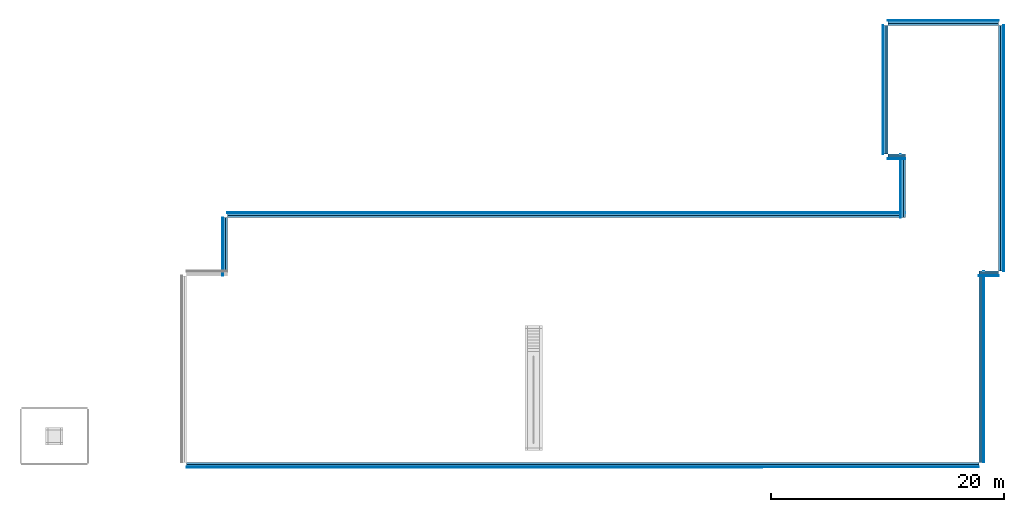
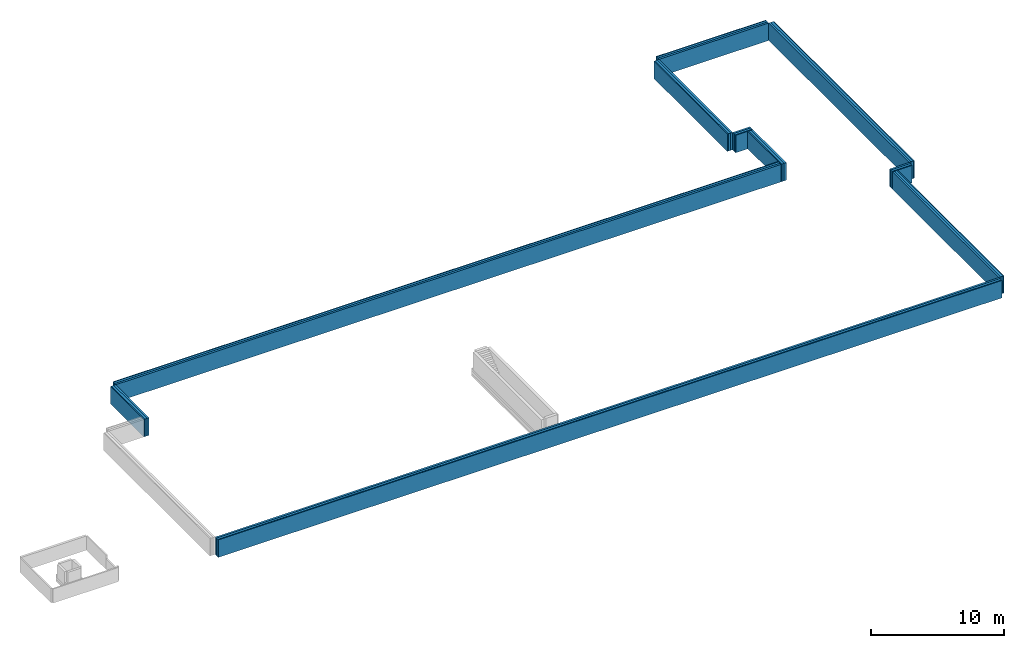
# One storey, part 2 of 3: 30 building element parts, 10 elements without a shape of their own.
"""IFC2X3 building model written with IfcOpenShell, lengths in millimetres."""

from ifc_helpers import new_model, entity, si_unit, converted_unit, derived_unit, money_unit, direction, frame, origin_with_axes, place, context, subcontext, project, spatial, polyline, outline, extrude, material, type_object, element, aggregate, save


model = new_model("IFC2X3")

# Units and contexts
model_context = context("Model", 3, precision=0.01, world=origin_with_axes(), true_north=direction((0.0, 1.0)))
body_context = subcontext(model_context, "Body", "Model", "MODEL_VIEW")
ifc_project = project(units=[si_unit("LENGTHUNIT", "METRE", prefix="MILLI"), si_unit("AREAUNIT", "SQUARE_METRE"), si_unit("VOLUMEUNIT", "CUBIC_METRE"), converted_unit("PLANEANGLEUNIT", "DEGREE", entity("IfcPlaneAngleMeasure", 0.0174532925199), si_unit("PLANEANGLEUNIT", "RADIAN"), dimensions=[0, 0, 0, 0, 0, 0, 0]), si_unit("SOLIDANGLEUNIT", "STERADIAN"), money_unit("EUR"), converted_unit("TIMEUNIT", "Year", entity("IfcTimeMeasure", 31556926.0), si_unit("TIMEUNIT", "SECOND"), dimensions=[0, 0, 1, 0, 0, 0, 0]), si_unit("MASSUNIT", "GRAM", prefix="KILO"), si_unit("THERMODYNAMICTEMPERATUREUNIT", "DEGREE_CELSIUS"), si_unit("LUMINOUSINTENSITYUNIT", "LUMEN"), si_unit("ENERGYUNIT", "JOULE", prefix="MEGA"), derived_unit("THERMALCONDUCTANCEUNIT", [(si_unit("POWERUNIT", "WATT"), 1), (si_unit("LENGTHUNIT", "METRE"), -1), (si_unit("THERMODYNAMICTEMPERATUREUNIT", "KELVIN"), -1)]), derived_unit("SPECIFICHEATCAPACITYUNIT", [(si_unit("ENERGYUNIT", "JOULE"), 1), (si_unit("MASSUNIT", "GRAM", prefix="KILO"), -1), (si_unit("THERMODYNAMICTEMPERATUREUNIT", "KELVIN"), -1)]), derived_unit("MASSDENSITYUNIT", [(si_unit("MASSUNIT", "GRAM", prefix="KILO"), 1), (si_unit("VOLUMEUNIT", "CUBIC_METRE"), -1)])], contexts=[model_context])

# Site, building, storey
site_placement = place(None, origin_with_axes())
site = spatial("IfcSite", under=ifc_project, at=site_placement, Name="Politse- ja Piirivalveameti ning Päästeameti ühishoone", CompositionType="ELEMENT")
building_placement = place(site_placement, origin_with_axes())
building = spatial("IfcBuilding", under=site, at=building_placement, Name="Politse- ja Piirivalveameti ning Päästeameti ühishoone", CompositionType="ELEMENT")
storey_placement = place(building_placement, frame((0.0, 0.0, -4000.0), z_axis=(0.0, 0.0, 1.0), x_axis=(1.0, 0.0, 0.0)))
storey = spatial("IfcBuildingStorey", under=building, at=storey_placement, Name="Vundament", CompositionType="ELEMENT", Elevation=-4000.0)

# Wall, building element parts
wall_type = type_object("IfcWallType", Name="VS-02_välissein - soklipaneel 460", PredefinedType="NOTDEFINED")
wall_1_placement = place(storey_placement, frame((0.0, 0.0, 2400.0), z_axis=(0.0, 0.0, 1.0), x_axis=(1.0, 0.0, 0.0)))
wall_1 = element("IfcWall", 1, at=wall_1_placement, inside=storey, type_object=wall_type, Name="VS-02")
ifc_material_1 = material(Name="KON-04_Betoon - Konstuktsioon")
building_element_part_1_placement = place(wall_1_placement, origin_with_axes())
building_element_part_1 = element("IfcBuildingElementPart", 2, at=building_element_part_1_placement, material=ifc_material_1, Name="KON-04_Betoon - Konstuktsioon", context=body_context, shape_type="SweptSolid", body=[
    extrude(outline(polyline([(0.0, -180.0), (67960.5638285, -180.0), (67960.5638285, 0.0), (0.0, 0.0), (0.0, -180.0)])), origin_with_axes(), (0.0, 0.0, 1.0), 1600.0),
])
ifc_material_2 = material(Name="SOJ-06_Soojustus - Plastik Kõva")
building_element_part_2_placement = place(wall_1_placement, origin_with_axes())
building_element_part_2 = element("IfcBuildingElementPart", 3, at=building_element_part_2_placement, material=ifc_material_2, Name="SOJ-06_Soojustus - Plastik Kõva", context=body_context, shape_type="SweptSolid", body=[
    extrude(outline(polyline([(0.0, -380.0), (67960.5638285, -380.0), (67960.5638285, -180.0), (0.0, -180.0), (0.0, -380.0)])), origin_with_axes(), (0.0, 0.0, 1.0), 1600.0),
])
building_element_part_3_placement = place(wall_1_placement, origin_with_axes())
building_element_part_3 = element("IfcBuildingElementPart", 4, at=building_element_part_3_placement, material=ifc_material_1, Name="KON-04_Betoon - Konstuktsioon", context=body_context, shape_type="SweptSolid", body=[
    extrude(outline(polyline([(0.0, -460.0), (67960.5638285, -460.0), (67960.5638285, -380.0), (0.0, -380.0), (0.0, -460.0)])), origin_with_axes(), (0.0, 0.0, 1.0), 1600.0),
])
aggregate(wall_1, [building_element_part_1, building_element_part_2, building_element_part_3])

wall_2_placement = place(storey_placement, frame((67960.5638285, 0.0, 2400.0), z_axis=(0.0, 0.0, 1.0), x_axis=(0.0, 1.0, 0.0)))
wall_2 = element("IfcWall", 5, at=wall_2_placement, inside=storey, type_object=wall_type, Name="VS-02")
building_element_part_4_placement = place(wall_2_placement, origin_with_axes())
building_element_part_4 = element("IfcBuildingElementPart", 6, at=building_element_part_4_placement, material=ifc_material_1, Name="KON-04_Betoon - Konstuktsioon", context=body_context, shape_type="SweptSolid", body=[
    extrude(outline(polyline([(0.0, -180.0), (16422.809139, -180.0), (16422.809139, 0.0), (0.0, 0.0), (0.0, -180.0)])), origin_with_axes(), (0.0, 0.0, 1.0), 1600.0),
])
building_element_part_5_placement = place(wall_2_placement, origin_with_axes())
building_element_part_5 = element("IfcBuildingElementPart", 7, at=building_element_part_5_placement, material=ifc_material_2, Name="SOJ-06_Soojustus - Plastik Kõva", context=body_context, shape_type="SweptSolid", body=[
    extrude(outline(polyline([(0.0, -380.0), (16422.809139, -380.0), (16422.809139, -180.0), (0.0, -180.0), (0.0, -380.0)])), origin_with_axes(), (0.0, 0.0, 1.0), 1600.0),
])
building_element_part_6_placement = place(wall_2_placement, origin_with_axes())
building_element_part_6 = element("IfcBuildingElementPart", 8, at=building_element_part_6_placement, material=ifc_material_1, Name="KON-04_Betoon - Konstuktsioon", context=body_context, shape_type="SweptSolid", body=[
    extrude(outline(polyline([(0.0, -460.0), (16422.809139, -460.0), (16422.809139, -380.0), (0.0, -380.0), (0.0, -460.0)])), origin_with_axes(), (0.0, 0.0, 1.0), 1600.0),
])
aggregate(wall_2, [building_element_part_4, building_element_part_5, building_element_part_6])

wall_3_placement = place(storey_placement, frame((69660.5664257, 37499.9521318, 2400.0), z_axis=(0.0, 0.0, 1.0), x_axis=(-1.0, 0.0, 0.0)))
wall_3 = element("IfcWall", 9, at=wall_3_placement, inside=storey, type_object=wall_type, Name="VS-02")
building_element_part_7_placement = place(wall_3_placement, origin_with_axes())
building_element_part_7 = element("IfcBuildingElementPart", 10, at=building_element_part_7_placement, material=ifc_material_1, Name="KON-04_Betoon - Konstuktsioon", context=body_context, shape_type="SweptSolid", body=[
    extrude(outline(polyline([(0.0, -180.0), (9500.01451389, -180.0), (9500.01451389, 0.0), (0.0, 0.0), (0.0, -180.0)])), origin_with_axes(), (0.0, 0.0, 1.0), 1600.0),
])
building_element_part_8_placement = place(wall_3_placement, origin_with_axes())
building_element_part_8 = element("IfcBuildingElementPart", 11, at=building_element_part_8_placement, material=ifc_material_2, Name="SOJ-06_Soojustus - Plastik Kõva", context=body_context, shape_type="SweptSolid", body=[
    extrude(outline(polyline([(0.0, -380.0), (9500.01451389, -380.0), (9500.01451389, -180.0), (0.0, -180.0), (0.0, -380.0)])), origin_with_axes(), (0.0, 0.0, 1.0), 1600.0),
])
building_element_part_9_placement = place(wall_3_placement, origin_with_axes())
building_element_part_9 = element("IfcBuildingElementPart", 12, at=building_element_part_9_placement, material=ifc_material_1, Name="KON-04_Betoon - Konstuktsioon", context=body_context, shape_type="SweptSolid", body=[
    extrude(outline(polyline([(0.0, -460.0), (9500.01451389, -460.0), (9500.01451389, -380.0), (0.0, -380.0), (0.0, -460.0)])), origin_with_axes(), (0.0, 0.0, 1.0), 1600.0),
])
aggregate(wall_3, [building_element_part_7, building_element_part_8, building_element_part_9])

wall_4_placement = place(storey_placement, frame((3500.00534722, 20999.9520832, 2400.0), z_axis=(0.0, 0.0, 1.0), x_axis=(1.0, 0.0, 0.0)))
wall_4 = element("IfcWall", 13, at=wall_4_placement, inside=storey, type_object=wall_type, Name="VS-02")
building_element_part_10_placement = place(wall_4_placement, origin_with_axes())
building_element_part_10 = element("IfcBuildingElementPart", 14, at=building_element_part_10_placement, material=ifc_material_1, Name="KON-04_Betoon - Konstuktsioon", context=body_context, shape_type="SweptSolid", body=[
    extrude(outline(polyline([(0.0, 0.0), (58160.5465646, 0.0), (58160.5465646, 180.0), (0.0, 180.0), (0.0, 0.0)])), origin_with_axes(), (0.0, 0.0, 1.0), 1600.0),
])
building_element_part_11_placement = place(wall_4_placement, origin_with_axes())
building_element_part_11 = element("IfcBuildingElementPart", 15, at=building_element_part_11_placement, material=ifc_material_2, Name="SOJ-06_Soojustus - Plastik Kõva", context=body_context, shape_type="SweptSolid", body=[
    extrude(outline(polyline([(0.0, 180.0), (58160.5465646, 180.0), (58160.5465646, 380.0), (0.0, 380.0), (0.0, 180.0)])), origin_with_axes(), (0.0, 0.0, 1.0), 1600.0),
])
building_element_part_12_placement = place(wall_4_placement, origin_with_axes())
building_element_part_12 = element("IfcBuildingElementPart", 16, at=building_element_part_12_placement, material=ifc_material_1, Name="KON-04_Betoon - Konstuktsioon", context=body_context, shape_type="SweptSolid", body=[
    extrude(outline(polyline([(0.0, 380.0), (58160.5465646, 380.0), (58160.5465646, 460.0), (0.0, 460.0), (0.0, 380.0)])), origin_with_axes(), (0.0, 0.0, 1.0), 1600.0),
])
aggregate(wall_4, [building_element_part_10, building_element_part_11, building_element_part_12])

wall_5_placement = place(storey_placement, frame((3500.00534722, 16000.0244444, 2400.0), z_axis=(0.0, 0.0, 1.0), x_axis=(0.0, 1.0, 0.0)))
wall_5 = element("IfcWall", 17, at=wall_5_placement, inside=storey, type_object=wall_type, Name="VS-02")
building_element_part_13_placement = place(wall_5_placement, origin_with_axes())
building_element_part_13 = element("IfcBuildingElementPart", 18, at=building_element_part_13_placement, material=ifc_material_1, Name="KON-04_Betoon - Konstuktsioon", context=body_context, shape_type="SweptSolid", body=[
    extrude(outline(polyline([(0.0, 0.0), (4999.92763877, 0.0), (4999.92763877, 180.0), (0.0, 180.0), (0.0, 0.0)])), origin_with_axes(), (0.0, 0.0, 1.0), 1600.0),
])
building_element_part_14_placement = place(wall_5_placement, origin_with_axes())
building_element_part_14 = element("IfcBuildingElementPart", 19, at=building_element_part_14_placement, material=ifc_material_2, Name="SOJ-06_Soojustus - Plastik Kõva", context=body_context, shape_type="SweptSolid", body=[
    extrude(outline(polyline([(0.0, 180.0), (4999.92763877, 180.0), (4999.92763877, 380.0), (0.0, 380.0), (0.0, 180.0)])), origin_with_axes(), (0.0, 0.0, 1.0), 1600.0),
])
building_element_part_15_placement = place(wall_5_placement, origin_with_axes())
building_element_part_15 = element("IfcBuildingElementPart", 20, at=building_element_part_15_placement, material=ifc_material_1, Name="KON-04_Betoon - Konstuktsioon", context=body_context, shape_type="SweptSolid", body=[
    extrude(outline(polyline([(0.0, 380.0), (4999.92763877, 380.0), (4999.92763877, 460.0), (0.0, 460.0), (0.0, 380.0)])), origin_with_axes(), (0.0, 0.0, 1.0), 1600.0),
])
aggregate(wall_5, [building_element_part_13, building_element_part_14, building_element_part_15])

wall_6_placement = place(storey_placement, frame((69660.5664257, 37499.9521318, 2400.0), z_axis=(0.0, 0.0, 1.0), x_axis=(0.0, -1.0, 0.0)))
wall_6 = element("IfcWall", 21, at=wall_6_placement, inside=storey, type_object=wall_type, Name="VS-02")
building_element_part_16_placement = place(wall_6_placement, origin_with_axes())
building_element_part_16 = element("IfcBuildingElementPart", 22, at=building_element_part_16_placement, material=ifc_material_1, Name="KON-04_Betoon - Konstuktsioon", context=body_context, shape_type="SweptSolid", body=[
    extrude(outline(polyline([(0.0, 0.0), (21077.1429928, 0.0), (21077.1429928, 180.0), (0.0, 180.0), (0.0, 0.0)])), origin_with_axes(), (0.0, 0.0, 1.0), 1600.0),
])
building_element_part_17_placement = place(wall_6_placement, origin_with_axes())
building_element_part_17 = element("IfcBuildingElementPart", 23, at=building_element_part_17_placement, material=ifc_material_2, Name="SOJ-06_Soojustus - Plastik Kõva", context=body_context, shape_type="SweptSolid", body=[
    extrude(outline(polyline([(0.0, 180.0), (21077.1429928, 180.0), (21077.1429928, 380.0), (0.0, 380.0), (0.0, 180.0)])), origin_with_axes(), (0.0, 0.0, 1.0), 1600.0),
])
building_element_part_18_placement = place(wall_6_placement, origin_with_axes())
building_element_part_18 = element("IfcBuildingElementPart", 24, at=building_element_part_18_placement, material=ifc_material_1, Name="KON-04_Betoon - Konstuktsioon", context=body_context, shape_type="SweptSolid", body=[
    extrude(outline(polyline([(0.0, 380.0), (21077.1429928, 380.0), (21077.1429928, 460.0), (0.0, 460.0), (0.0, 380.0)])), origin_with_axes(), (0.0, 0.0, 1.0), 1600.0),
])
aggregate(wall_6, [building_element_part_16, building_element_part_17, building_element_part_18])

wall_7_placement = place(storey_placement, frame((69660.5664257, 16422.809139, 2400.0), z_axis=(0.0, 0.0, 1.0), x_axis=(-1.0, 0.0, 0.0)))
wall_7 = element("IfcWall", 25, at=wall_7_placement, inside=storey, type_object=wall_type, Name="VS-02")
building_element_part_19_placement = place(wall_7_placement, origin_with_axes())
building_element_part_19 = element("IfcBuildingElementPart", 26, at=building_element_part_19_placement, material=ifc_material_1, Name="KON-04_Betoon - Konstuktsioon", context=body_context, shape_type="SweptSolid", body=[
    extrude(outline(polyline([(0.0, 0.0), (1700.00259722, 0.0), (1700.00259722, 180.0), (0.0, 180.0), (0.0, 0.0)])), origin_with_axes(), (0.0, 0.0, 1.0), 1600.0),
])
building_element_part_20_placement = place(wall_7_placement, origin_with_axes())
building_element_part_20 = element("IfcBuildingElementPart", 27, at=building_element_part_20_placement, material=ifc_material_2, Name="SOJ-06_Soojustus - Plastik Kõva", context=body_context, shape_type="SweptSolid", body=[
    extrude(outline(polyline([(0.0, 180.0), (1700.00259722, 180.0), (1700.00259722, 380.0), (0.0, 380.0), (0.0, 180.0)])), origin_with_axes(), (0.0, 0.0, 1.0), 1600.0),
])
building_element_part_21_placement = place(wall_7_placement, origin_with_axes())
building_element_part_21 = element("IfcBuildingElementPart", 28, at=building_element_part_21_placement, material=ifc_material_1, Name="KON-04_Betoon - Konstuktsioon", context=body_context, shape_type="SweptSolid", body=[
    extrude(outline(polyline([(0.0, 380.0), (1700.00259722, 380.0), (1700.00259722, 460.0), (0.0, 460.0), (0.0, 380.0)])), origin_with_axes(), (0.0, 0.0, 1.0), 1600.0),
])
aggregate(wall_7, [building_element_part_19, building_element_part_20, building_element_part_21])

wall_8_placement = place(storey_placement, frame((60160.5519118, 37499.9521318, 2400.0), z_axis=(0.0, 0.0, 1.0), x_axis=(0.0, -1.0, 0.0)))
wall_8 = element("IfcWall", 29, at=wall_8_placement, inside=storey, type_object=wall_type, Name="VS-02")
building_element_part_22_placement = place(wall_8_placement, origin_with_axes())
building_element_part_22 = element("IfcBuildingElementPart", 30, at=building_element_part_22_placement, material=ifc_material_1, Name="KON-04_Betoon - Konstuktsioon", context=body_context, shape_type="SweptSolid", body=[
    extrude(outline(polyline([(0.0, -180.0), (11040.0000486, -180.0), (11040.0000486, 0.0), (0.0, 0.0), (0.0, -180.0)])), origin_with_axes(), (0.0, 0.0, 1.0), 1600.0),
])
building_element_part_23_placement = place(wall_8_placement, origin_with_axes())
building_element_part_23 = element("IfcBuildingElementPart", 31, at=building_element_part_23_placement, material=ifc_material_2, Name="SOJ-06_Soojustus - Plastik Kõva", context=body_context, shape_type="SweptSolid", body=[
    extrude(outline(polyline([(0.0, -380.0), (11040.0000486, -380.0), (11040.0000486, -180.0), (0.0, -180.0), (0.0, -380.0)])), origin_with_axes(), (0.0, 0.0, 1.0), 1600.0),
])
building_element_part_24_placement = place(wall_8_placement, origin_with_axes())
building_element_part_24 = element("IfcBuildingElementPart", 32, at=building_element_part_24_placement, material=ifc_material_1, Name="KON-04_Betoon - Konstuktsioon", context=body_context, shape_type="SweptSolid", body=[
    extrude(outline(polyline([(0.0, -460.0), (11040.0000486, -460.0), (11040.0000486, -380.0), (0.0, -380.0), (0.0, -460.0)])), origin_with_axes(), (0.0, 0.0, 1.0), 1600.0),
])
aggregate(wall_8, [building_element_part_22, building_element_part_23, building_element_part_24])

wall_9_placement = place(storey_placement, frame((60160.5519118, 26459.9520832, 2400.0), z_axis=(0.0, 0.0, 1.0), x_axis=(1.0, 0.0, 0.0)))
wall_9 = element("IfcWall", 33, at=wall_9_placement, inside=storey, type_object=wall_type, Name="VS-02")
building_element_part_25_placement = place(wall_9_placement, origin_with_axes())
building_element_part_25 = element("IfcBuildingElementPart", 34, at=building_element_part_25_placement, material=ifc_material_1, Name="KON-04_Betoon - Konstuktsioon", context=body_context, shape_type="SweptSolid", body=[
    extrude(outline(polyline([(0.0, -180.0), (1500.0, -180.0), (1500.0, 0.0), (0.0, 0.0), (0.0, -180.0)])), origin_with_axes(), (0.0, 0.0, 1.0), 1600.0),
])
building_element_part_26_placement = place(wall_9_placement, origin_with_axes())
building_element_part_26 = element("IfcBuildingElementPart", 35, at=building_element_part_26_placement, material=ifc_material_2, Name="SOJ-06_Soojustus - Plastik Kõva", context=body_context, shape_type="SweptSolid", body=[
    extrude(outline(polyline([(0.0, -380.0), (1500.0, -380.0), (1500.0, -180.0), (0.0, -180.0), (0.0, -380.0)])), origin_with_axes(), (0.0, 0.0, 1.0), 1600.0),
])
building_element_part_27_placement = place(wall_9_placement, origin_with_axes())
building_element_part_27 = element("IfcBuildingElementPart", 36, at=building_element_part_27_placement, material=ifc_material_1, Name="KON-04_Betoon - Konstuktsioon", context=body_context, shape_type="SweptSolid", body=[
    extrude(outline(polyline([(0.0, -460.0), (1500.0, -460.0), (1500.0, -380.0), (0.0, -380.0), (0.0, -460.0)])), origin_with_axes(), (0.0, 0.0, 1.0), 1600.0),
])
aggregate(wall_9, [building_element_part_25, building_element_part_26, building_element_part_27])

wall_10_placement = place(storey_placement, frame((61660.5519118, 26459.9520832, 2400.0), z_axis=(0.0, 0.0, 1.0), x_axis=(0.0, -1.0, 0.0)))
wall_10 = element("IfcWall", 37, at=wall_10_placement, inside=storey, type_object=wall_type, Name="VS-02")
building_element_part_28_placement = place(wall_10_placement, origin_with_axes())
building_element_part_28 = element("IfcBuildingElementPart", 38, at=building_element_part_28_placement, material=ifc_material_1, Name="KON-04_Betoon - Konstuktsioon", context=body_context, shape_type="SweptSolid", body=[
    extrude(outline(polyline([(0.0, -180.0), (5460.0, -180.0), (5460.0, 0.0), (0.0, 0.0), (0.0, -180.0)])), origin_with_axes(), (0.0, 0.0, 1.0), 1600.0),
])
building_element_part_29_placement = place(wall_10_placement, origin_with_axes())
building_element_part_29 = element("IfcBuildingElementPart", 39, at=building_element_part_29_placement, material=ifc_material_2, Name="SOJ-06_Soojustus - Plastik Kõva", context=body_context, shape_type="SweptSolid", body=[
    extrude(outline(polyline([(0.0, -380.0), (5460.0, -380.0), (5460.0, -180.0), (0.0, -180.0), (0.0, -380.0)])), origin_with_axes(), (0.0, 0.0, 1.0), 1600.0),
])
building_element_part_30_placement = place(wall_10_placement, origin_with_axes())
building_element_part_30 = element("IfcBuildingElementPart", 40, at=building_element_part_30_placement, material=ifc_material_1, Name="KON-04_Betoon - Konstuktsioon", context=body_context, shape_type="SweptSolid", body=[
    extrude(outline(polyline([(0.0, -460.0), (5460.0, -460.0), (5460.0, -380.0), (0.0, -380.0), (0.0, -460.0)])), origin_with_axes(), (0.0, 0.0, 1.0), 1600.0),
])
aggregate(wall_10, [building_element_part_28, building_element_part_29, building_element_part_30])

save(model, "model.ifc")
